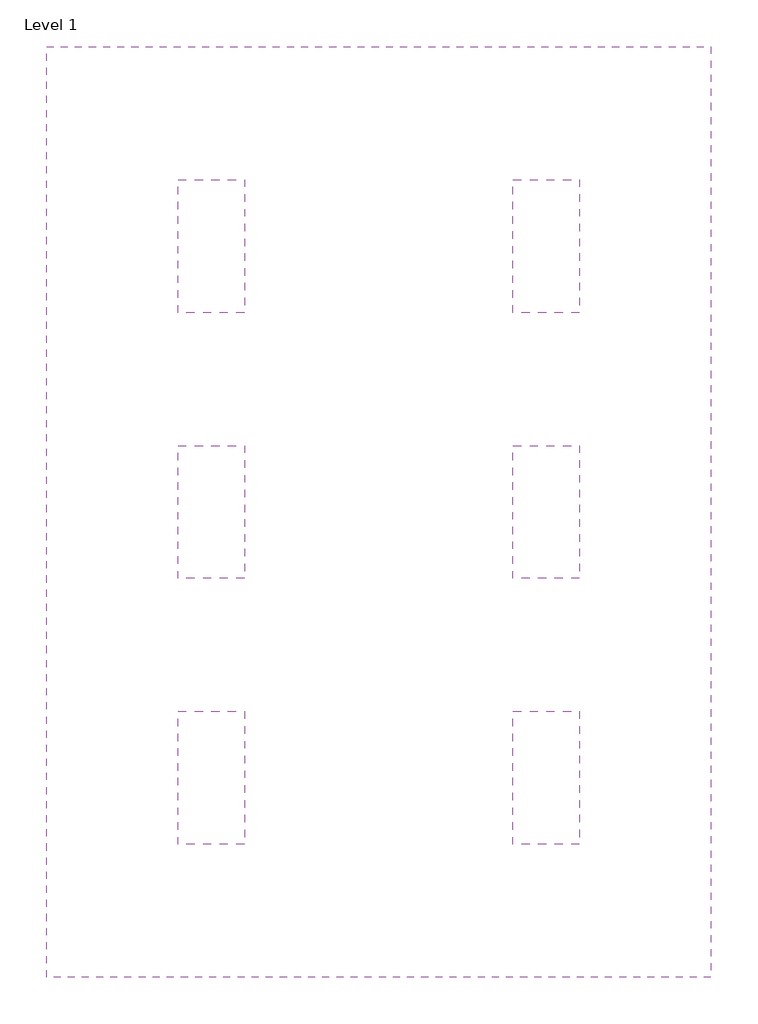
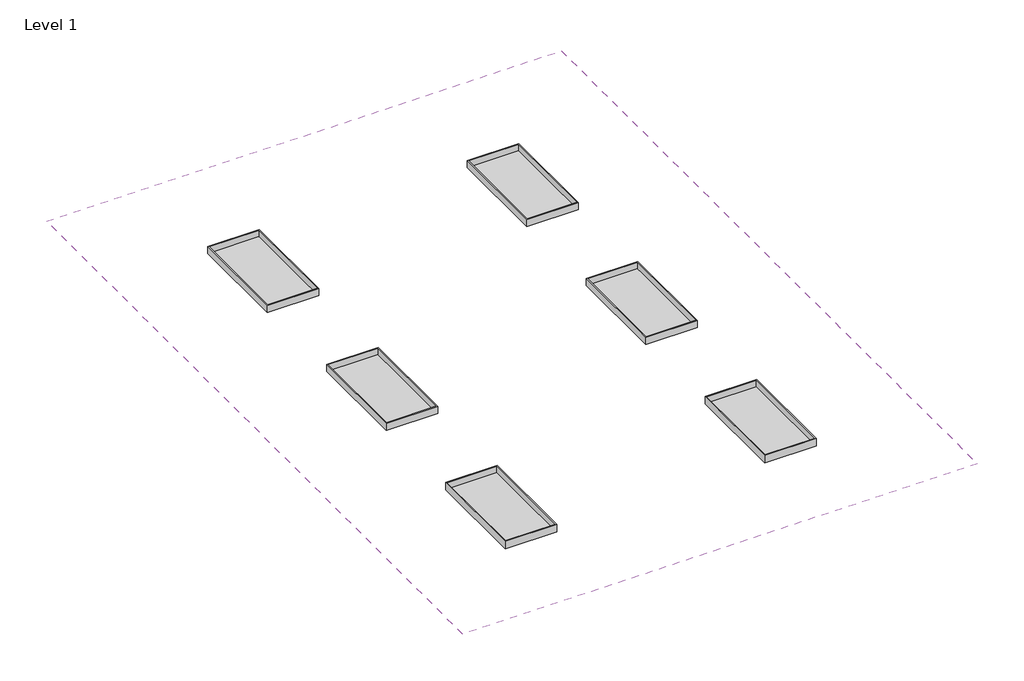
# One storey: 6 light fixtures, 1 covering.
"""IFC4 building model written with IfcOpenShell, lengths in millimetres."""

from ifc_helpers import new_model, si_unit, frame, origin, place, context, project, spatial, polyline, outline, extrude, transform, mapped, element, save
from components import m_ceiling_light_linear_box_0600x1200mm_2_lamp_120v_1db497d3

model = new_model("IFC4")

# Units and contexts
model_context = context("Model", 3, world=origin())
ifc_project = project(units=[si_unit("LENGTHUNIT", "METRE", prefix="MILLI")], contexts=[model_context])

# Site, building, storey
site = spatial("IfcSite", under=ifc_project)
building = spatial("IfcBuilding", under=site)
storey = spatial("IfcBuildingStorey", under=building, Name="Level 1", Elevation=0.0)

# Covering
placement = place(None, origin())
element("IfcCovering", 1, ObjectType="600 x 600mm Grid", at=placement, inside=storey, context=model_context, shape_type="SweptSolid", body=[
    extrude(outline(polyline([(-6467.0275273, 12767.0111865), (-6467.0275273, 4367.0111865), (-12467.0275273, 4367.0111865), (-12467.0275273, 12767.0111865), (-6467.0275273, 12767.0111865)])), frame((0.0, 0.0, 2400.0), z_axis=(0.0, 0.0, 1.0), x_axis=(1.0, 0.0, 0.0)), (0.0, 0.0, 1.0), 52.0),
])

# Light fixtures
m_ceiling_light_linear_box_0600x1200mm_2_lamp_120v_shape = m_ceiling_light_linear_box_0600x1200mm_2_lamp_120v_1db497d3(model_context)
element("IfcLightFixture", 2, ObjectType="M_Ceiling Light - Linear Box : 0600x1200mm(2 Lamp) - 120V", at=placement, inside=storey, context=model_context, shape_type="MappedRepresentation", body=[
    mapped(m_ceiling_light_linear_box_0600x1200mm_2_lamp_120v_shape, transform((-11279.7275273, 10967.0111865, 2400.0), x_axis=(0.0, -1.0, 0.0), y_axis=(-1.0, 0.0, 0.0), z_axis=(0.0, 0.0, -1.0))),
])
element("IfcLightFixture", 3, ObjectType="M_Ceiling Light - Linear Box : 0600x1200mm(2 Lamp) - 120V", at=placement, inside=storey, context=model_context, shape_type="MappedRepresentation", body=[
    mapped(m_ceiling_light_linear_box_0600x1200mm_2_lamp_120v_shape, transform((-11279.7275273, 8567.0111865, 2400.0), x_axis=(0.0, -1.0, 0.0), y_axis=(-1.0, 0.0, 0.0), z_axis=(0.0, 0.0, -1.0))),
])
element("IfcLightFixture", 4, ObjectType="M_Ceiling Light - Linear Box : 0600x1200mm(2 Lamp) - 120V", at=placement, inside=storey, context=model_context, shape_type="MappedRepresentation", body=[
    mapped(m_ceiling_light_linear_box_0600x1200mm_2_lamp_120v_shape, transform((-11279.7275273, 6167.0111865, 2400.0), x_axis=(0.0, -1.0, 0.0), y_axis=(-1.0, 0.0, 0.0), z_axis=(0.0, 0.0, -1.0))),
])
element("IfcLightFixture", 5, ObjectType="M_Ceiling Light - Linear Box : 0600x1200mm(2 Lamp) - 120V", at=placement, inside=storey, context=model_context, shape_type="MappedRepresentation", body=[
    mapped(m_ceiling_light_linear_box_0600x1200mm_2_lamp_120v_shape, transform((-8254.3275273, 10967.0111865, 2400.0), x_axis=(0.0, -1.0, 0.0), y_axis=(-1.0, 0.0, 0.0), z_axis=(0.0, 0.0, -1.0))),
])
element("IfcLightFixture", 6, ObjectType="M_Ceiling Light - Linear Box : 0600x1200mm(2 Lamp) - 120V", at=placement, inside=storey, context=model_context, shape_type="MappedRepresentation", body=[
    mapped(m_ceiling_light_linear_box_0600x1200mm_2_lamp_120v_shape, transform((-8254.3275273, 8567.0111865, 2400.0), x_axis=(0.0, -1.0, 0.0), y_axis=(-1.0, 0.0, 0.0), z_axis=(0.0, 0.0, -1.0))),
])
element("IfcLightFixture", 7, ObjectType="M_Ceiling Light - Linear Box : 0600x1200mm(2 Lamp) - 120V", at=placement, inside=storey, context=model_context, shape_type="MappedRepresentation", body=[
    mapped(m_ceiling_light_linear_box_0600x1200mm_2_lamp_120v_shape, transform((-8254.3275273, 6167.0111865, 2400.0), x_axis=(0.0, -1.0, 0.0), y_axis=(-1.0, 0.0, 0.0), z_axis=(0.0, 0.0, -1.0))),
])

save(model, "model.ifc")
